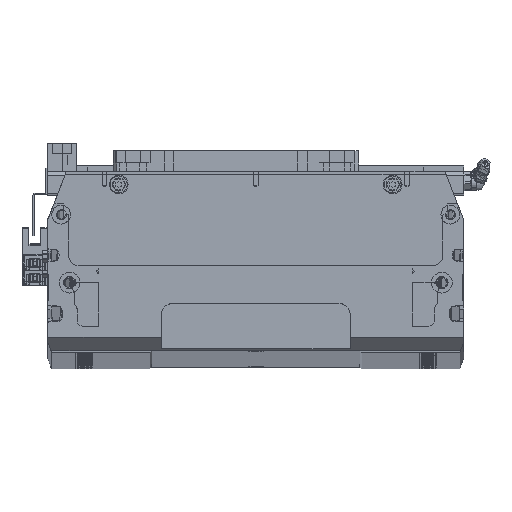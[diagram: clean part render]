
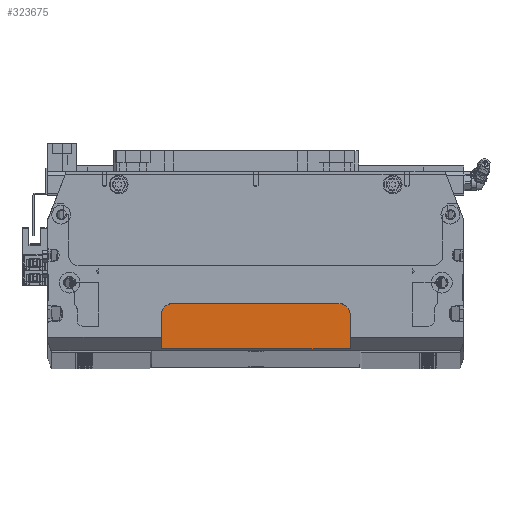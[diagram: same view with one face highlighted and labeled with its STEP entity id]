
A CAD part, top view. The second image highlights one B-rep face of the part: STEP entity #323675.
In plain terms, the highlighted planar face has unit normal (0, 0, 1) as drawn and (0, 1, 0) by its records, which use the part's own axes.
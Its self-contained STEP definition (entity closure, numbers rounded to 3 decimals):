
#3624 = EDGE_CURVE ( 'NONE', #219194, #275122, #63788, .T. ) ;
#19902 = LINE ( 'NONE', #398140, #351160 ) ;
#28323 = DIRECTION ( 'NONE',  ( 0., 0., -1. ) ) ;
#30133 = ORIENTED_EDGE ( 'NONE', *, *, #49412, .T. ) ;
#41375 = ORIENTED_EDGE ( 'NONE', *, *, #3624, .F. ) ;
#49412 = EDGE_CURVE ( 'NONE', #87938, #157731, #414985, .T. ) ;
#54850 = EDGE_CURVE ( 'NONE', #80789, #87938, #19902, .T. ) ;
#62072 = DIRECTION ( 'NONE',  ( 0., 1., 0. ) ) ;
#62901 = DIRECTION ( 'NONE',  ( -1., 0., 0. ) ) ;
#63788 = LINE ( 'NONE', #434149, #453778 ) ;
#64268 = AXIS2_PLACEMENT_3D ( 'NONE', #472168, #240984, #202967 ) ;
#65904 = DIRECTION ( 'NONE',  ( -1., 0., 0. ) ) ;
#80789 = VERTEX_POINT ( 'NONE', #339775 ) ;
#87938 = VERTEX_POINT ( 'NONE', #143427 ) ;
#119502 = DIRECTION ( 'NONE',  ( 0., 0., 1. ) ) ;
#122584 = VERTEX_POINT ( 'NONE', #298136 ) ;
#132046 = VECTOR ( 'NONE', #177571, 1000. ) ;
#136357 = DIRECTION ( 'NONE',  ( 0., 0., -1. ) ) ;
#143427 = CARTESIAN_POINT ( 'NONE',  ( -44., 8., 33.25 ) ) ;
#145482 = DIRECTION ( 'NONE',  ( 0., 1., 0. ) ) ;
#145624 = AXIS2_PLACEMENT_3D ( 'NONE', #476633, #62072, #136357 ) ;
#149238 = FACE_OUTER_BOUND ( 'NONE', #221974, .T. ) ;
#157731 = VERTEX_POINT ( 'NONE', #163057 ) ;
#163057 = CARTESIAN_POINT ( 'NONE',  ( -50., 8., 39.25 ) ) ;
#167582 = CIRCLE ( 'NONE', #477954, 6. ) ;
#177571 = DIRECTION ( 'NONE',  ( 0., 0., -1. ) ) ;
#178570 = CARTESIAN_POINT ( 'NONE',  ( 44., 8., 39.25 ) ) ;
#191274 = LINE ( 'NONE', #448354, #132046 ) ;
#202967 = DIRECTION ( 'NONE',  ( 0., 0., -1. ) ) ;
#219194 = VERTEX_POINT ( 'NONE', #475902 ) ;
#221974 = EDGE_LOOP ( 'NONE', ( #270567, #444618, #388259, #30133, #453683, #41375 ) ) ;
#231681 = CARTESIAN_POINT ( 'NONE',  ( -50., 8., 57.25 ) ) ;
#240984 = DIRECTION ( 'NONE',  ( 0., -1., 0. ) ) ;
#270567 = ORIENTED_EDGE ( 'NONE', *, *, #338444, .T. ) ;
#275122 = VERTEX_POINT ( 'NONE', #231681 ) ;
#298136 = CARTESIAN_POINT ( 'NONE',  ( 50., 8., 39.25 ) ) ;
#312846 = EDGE_CURVE ( 'NONE', #122584, #80789, #167582, .T. ) ;
#323675 = ADVANCED_FACE ( 'NONE', ( #149238 ), #429259, .F. ) ;
#338444 = EDGE_CURVE ( 'NONE', #219194, #122584, #191274, .T. ) ;
#339775 = CARTESIAN_POINT ( 'NONE',  ( 44., 8., 33.25 ) ) ;
#342557 = VECTOR ( 'NONE', #119502, 1000. ) ;
#345738 = CARTESIAN_POINT ( 'NONE',  ( -50., 8., 58.25 ) ) ;
#351160 = VECTOR ( 'NONE', #62901, 1000. ) ;
#351245 = EDGE_CURVE ( 'NONE', #157731, #275122, #354359, .T. ) ;
#354359 = LINE ( 'NONE', #345738, #342557 ) ;
#388259 = ORIENTED_EDGE ( 'NONE', *, *, #54850, .T. ) ;
#398140 = CARTESIAN_POINT ( 'NONE',  ( -50., 8., 33.25 ) ) ;
#414985 = CIRCLE ( 'NONE', #145624, 6. ) ;
#429259 = PLANE ( 'NONE',  #64268 ) ;
#434149 = CARTESIAN_POINT ( 'NONE',  ( 110., 8., 57.25 ) ) ;
#444618 = ORIENTED_EDGE ( 'NONE', *, *, #312846, .T. ) ;
#448354 = CARTESIAN_POINT ( 'NONE',  ( 50., 8., 58.25 ) ) ;
#453683 = ORIENTED_EDGE ( 'NONE', *, *, #351245, .T. ) ;
#453778 = VECTOR ( 'NONE', #65904, 1000. ) ;
#472168 = CARTESIAN_POINT ( 'NONE',  ( 0., 8., 0. ) ) ;
#475902 = CARTESIAN_POINT ( 'NONE',  ( 50., 8., 57.25 ) ) ;
#476633 = CARTESIAN_POINT ( 'NONE',  ( -44., 8., 39.25 ) ) ;
#477954 = AXIS2_PLACEMENT_3D ( 'NONE', #178570, #145482, #28323 ) ;
